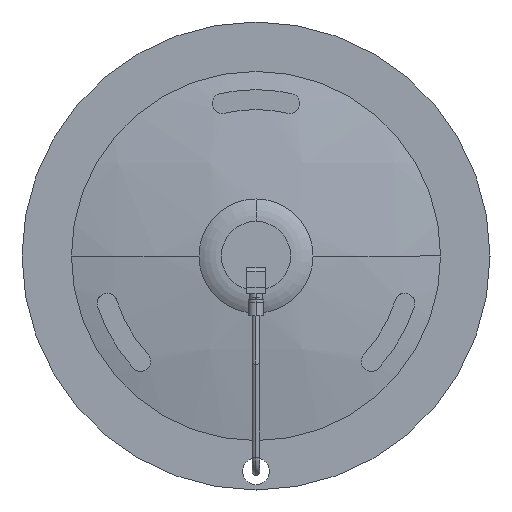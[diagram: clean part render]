
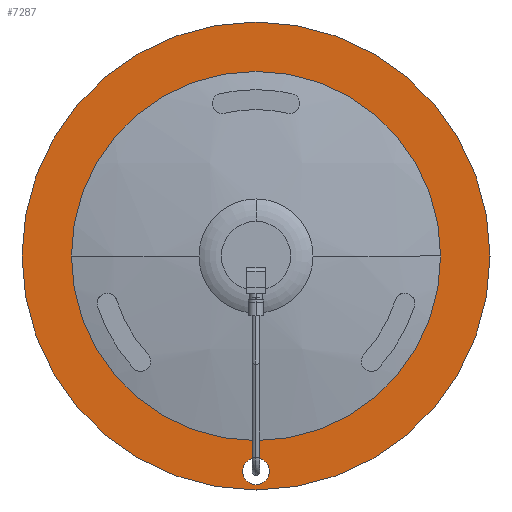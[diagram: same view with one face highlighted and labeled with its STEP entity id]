
A CAD part, front view. The second image highlights one B-rep face of the part: STEP entity #7287.
In plain terms, the highlighted planar face has unit normal (0, -1, 0).
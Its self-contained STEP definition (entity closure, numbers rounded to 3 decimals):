
#101 = AXIS2_PLACEMENT_3D ( 'NONE', #7577, #6581, #3281 ) ;
#411 = VERTEX_POINT ( 'NONE', #8383 ) ;
#604 = EDGE_LOOP ( 'NONE', ( #6799, #3690 ) ) ;
#783 = CARTESIAN_POINT ( 'NONE',  ( 138.834, -205.4, 0. ) ) ;
#1287 = FACE_OUTER_BOUND ( 'NONE', #13155, .T. ) ;
#2865 = CARTESIAN_POINT ( 'NONE',  ( 0., -205.4, -172. ) ) ;
#3139 = ORIENTED_EDGE ( 'NONE', *, *, #8579, .F. ) ;
#3157 = CARTESIAN_POINT ( 'NONE',  ( 0., -205.4, -152. ) ) ;
#3270 = EDGE_LOOP ( 'NONE', ( #6212, #3139 ) ) ;
#3281 = DIRECTION ( 'NONE',  ( 0., 0., -1. ) ) ;
#3381 = CARTESIAN_POINT ( 'NONE',  ( 0., -205.4, 0. ) ) ;
#3536 = AXIS2_PLACEMENT_3D ( 'NONE', #5832, #11174, #11032 ) ;
#3690 = ORIENTED_EDGE ( 'NONE', *, *, #5749, .F. ) ;
#3986 = DIRECTION ( 'NONE',  ( 0., 0., 1. ) ) ;
#4499 = EDGE_CURVE ( 'NONE', #10034, #10277, #11054, .T. ) ;
#4500 = DIRECTION ( 'NONE',  ( 0., -1., 0. ) ) ;
#4584 = DIRECTION ( 'NONE',  ( 0., 1., 0. ) ) ;
#5132 = AXIS2_PLACEMENT_3D ( 'NONE', #6901, #4584, #12183 ) ;
#5602 = FACE_BOUND ( 'NONE', #604, .T. ) ;
#5749 = EDGE_CURVE ( 'NONE', #10277, #10034, #5907, .T. ) ;
#5832 = CARTESIAN_POINT ( 'NONE',  ( 0., -205.4, 0. ) ) ;
#5907 = CIRCLE ( 'NONE', #7027, 10. ) ;
#6124 = AXIS2_PLACEMENT_3D ( 'NONE', #6176, #9201, #12663 ) ;
#6176 = CARTESIAN_POINT ( 'NONE',  ( 0., -205.4, -162. ) ) ;
#6198 = AXIS2_PLACEMENT_3D ( 'NONE', #8278, #13493, #3986 ) ;
#6212 = ORIENTED_EDGE ( 'NONE', *, *, #10961, .F. ) ;
#6581 = DIRECTION ( 'NONE',  ( 0., -1., 0. ) ) ;
#6799 = ORIENTED_EDGE ( 'NONE', *, *, #4499, .F. ) ;
#6901 = CARTESIAN_POINT ( 'NONE',  ( 0., -205.4, 0. ) ) ;
#7027 = AXIS2_PLACEMENT_3D ( 'NONE', #7652, #11949, #12939 ) ;
#7223 = CARTESIAN_POINT ( 'NONE',  ( -138.834, -205.4, 0. ) ) ;
#7257 = VERTEX_POINT ( 'NONE', #7223 ) ;
#7287 = ADVANCED_FACE ( 'NONE', ( #5602, #8756, #1287 ), #9889, .T. ) ;
#7379 = ORIENTED_EDGE ( 'NONE', *, *, #9446, .F. ) ;
#7577 = CARTESIAN_POINT ( 'NONE',  ( -176., -205.4, 0. ) ) ;
#7652 = CARTESIAN_POINT ( 'NONE',  ( 0., -205.4, -162. ) ) ;
#8278 = CARTESIAN_POINT ( 'NONE',  ( 0., -205.4, 0. ) ) ;
#8383 = CARTESIAN_POINT ( 'NONE',  ( 0., -205.4, 176. ) ) ;
#8579 = EDGE_CURVE ( 'NONE', #11952, #7257, #12241, .T. ) ;
#8756 = FACE_BOUND ( 'NONE', #3270, .T. ) ;
#8987 = DIRECTION ( 'NONE',  ( 0., 0., -1. ) ) ;
#9201 = DIRECTION ( 'NONE',  ( 0., -1., 0. ) ) ;
#9446 = EDGE_CURVE ( 'NONE', #411, #11513, #11179, .T. ) ;
#9889 = PLANE ( 'NONE',  #101 ) ;
#9969 = ORIENTED_EDGE ( 'NONE', *, *, #12439, .F. ) ;
#10034 = VERTEX_POINT ( 'NONE', #3157 ) ;
#10277 = VERTEX_POINT ( 'NONE', #2865 ) ;
#10961 = EDGE_CURVE ( 'NONE', #7257, #11952, #11393, .T. ) ;
#11032 = DIRECTION ( 'NONE',  ( 0., 0., -1. ) ) ;
#11054 = CIRCLE ( 'NONE', #6124, 10. ) ;
#11174 = DIRECTION ( 'NONE',  ( 0., -1., 0. ) ) ;
#11179 = CIRCLE ( 'NONE', #5132, 176. ) ;
#11393 = CIRCLE ( 'NONE', #3536, 138.834 ) ;
#11513 = VERTEX_POINT ( 'NONE', #12518 ) ;
#11949 = DIRECTION ( 'NONE',  ( 0., -1., 0. ) ) ;
#11952 = VERTEX_POINT ( 'NONE', #783 ) ;
#12183 = DIRECTION ( 'NONE',  ( 0., 0., 1. ) ) ;
#12241 = CIRCLE ( 'NONE', #12934, 138.834 ) ;
#12264 = CIRCLE ( 'NONE', #6198, 176. ) ;
#12439 = EDGE_CURVE ( 'NONE', #11513, #411, #12264, .T. ) ;
#12518 = CARTESIAN_POINT ( 'NONE',  ( 0., -205.4, -176. ) ) ;
#12663 = DIRECTION ( 'NONE',  ( 0., 0., -1. ) ) ;
#12934 = AXIS2_PLACEMENT_3D ( 'NONE', #3381, #4500, #8987 ) ;
#12939 = DIRECTION ( 'NONE',  ( 0., 0., -1. ) ) ;
#13155 = EDGE_LOOP ( 'NONE', ( #7379, #9969 ) ) ;
#13493 = DIRECTION ( 'NONE',  ( 0., 1., 0. ) ) ;
